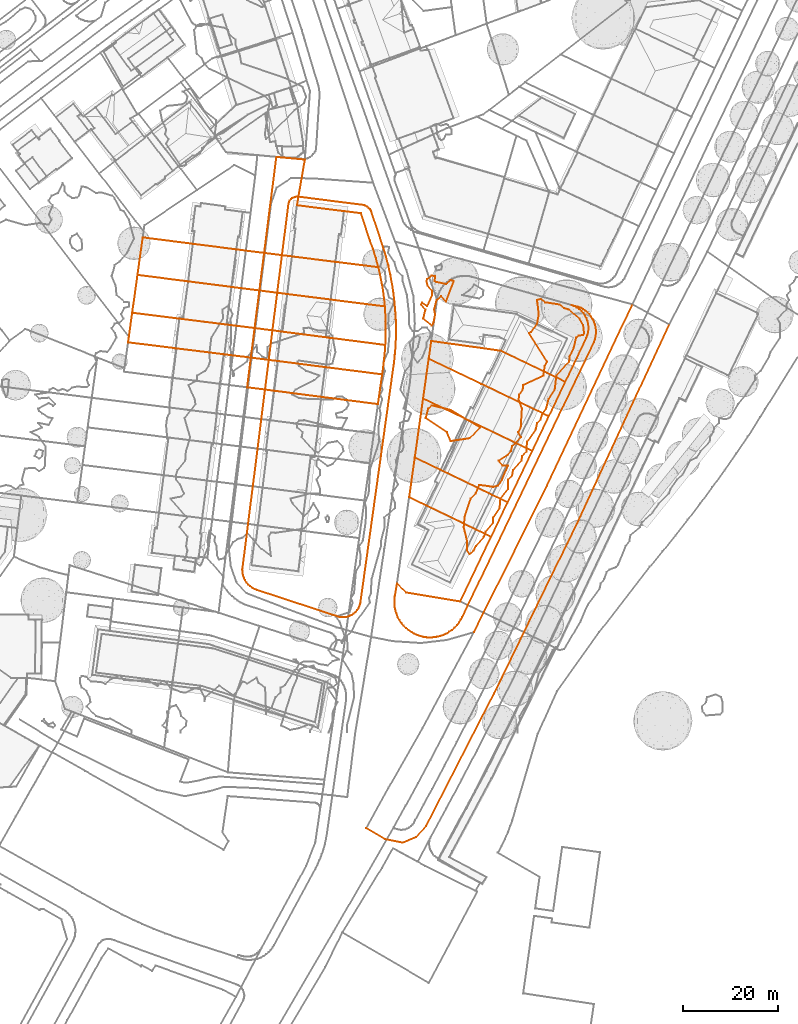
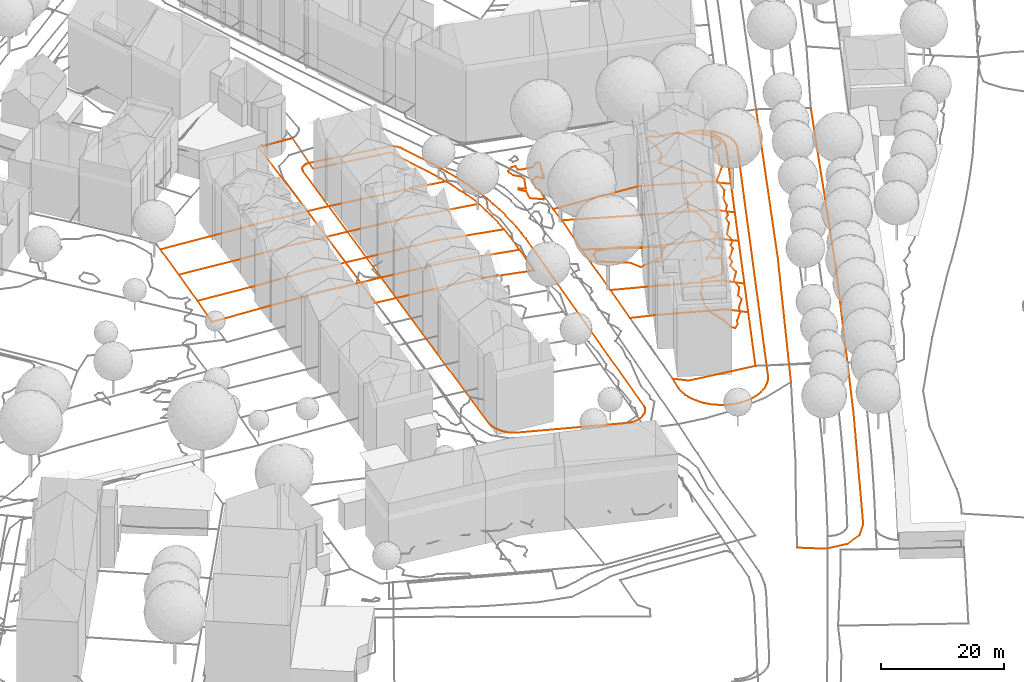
# Not in any storey, part 128 of 494: 19 proxies.
"""IFC2X3 model written with IfcOpenShell, lengths in metres."""

import ifcopenshell
import ifcopenshell.guid

model = None  # the IFC model being written
_history = None  # IfcOwnerHistory: only IFC2X3 demands one
_inside = {}  # id of a spatial element -> (the spatial element, [elements in it])
_under = {}  # id of a project, library or spatial element -> (it, [spatial elements below it])
_declared = {}  # id of a project -> (the project, [libraries it declares])
_typed = {}  # id of a type object -> (the type object, [elements of that type])
_made_of = {}  # id of a material, layer set ... -> (it, [elements and type objects made of it])


def new_model(schema):
    """Start an empty IFC model of exactly this schema.

    Asked for "IFC4X3", IfcOpenShell would pick the latest addendum, in which some entities
    have other attributes; the version numbers below select the first issue.
    IFC2X3 requires an IfcOwnerHistory on every rooted entity: one is made here for all.
    """
    global model, _history
    if schema == "IFC4X3":
        model = ifcopenshell.file(schema_version=(4, 3, 0, 0))
    else:
        model = ifcopenshell.file(schema=schema)
    _inside.clear()
    _under.clear()
    _declared.clear()
    _typed.clear()
    _made_of.clear()
    _history = None
    if model.schema == "IFC2X3":
        org = make("IfcOrganization", Name="unknown")
        user = make(
            "IfcPersonAndOrganization",
            ThePerson=make("IfcPerson", FamilyName="unknown"),
            TheOrganization=org,
        )
        app = make(
            "IfcApplication",
            ApplicationDeveloper=org,
            Version="unknown",
            ApplicationFullName="unknown",
            ApplicationIdentifier="unknown",
        )
        _history = make(
            "IfcOwnerHistory",
            OwningUser=user,
            OwningApplication=app,
            ChangeAction="ADDED",
            CreationDate=0,
        )
    return model


def make(cls, **values):
    """One entity of the class cls with the attributes given. An attribute that is None is left unset."""
    return model.create_entity(
        cls, **{name: value for name, value in values.items() if value is not None}
    )


def entity(cls, *values):
    """Any entity or typed value of the class cls, its attributes in the order of the schema. None: left unset."""
    e = model.create_entity(cls)
    for i, value in enumerate(values):
        if value is not None:
            e[i] = value
    return e


def rooted(cls, **values):
    """An entity with a GlobalId (a new one), such as an element, a storey or a relation."""
    return make(cls, GlobalId=ifcopenshell.guid.new(), OwnerHistory=_history, **values)


def si_unit(unit_type, name, prefix=None):
    """IfcSIUnit, for example si_unit("LENGTHUNIT", "METRE", prefix="MILLI")."""
    return make("IfcSIUnit", UnitType=unit_type, Prefix=prefix, Name=name)


def assignment(units):
    """IfcUnitAssignment: the units of a project."""
    return None if units is None else make("IfcUnitAssignment", Units=units)


def point(xyz):
    """IfcCartesianPoint."""
    return None if xyz is None else make("IfcCartesianPoint", Coordinates=xyz)


def direction(xyz):
    """IfcDirection."""
    return None if xyz is None else make("IfcDirection", DirectionRatios=xyz)


def frame(location, z_axis=None, x_axis=None):
    """IfcAxis2Placement3D, a coordinate frame: its origin and axes. An axis left out is left unset."""
    return make(
        "IfcAxis2Placement3D",
        Location=point(location),
        Axis=direction(z_axis),
        RefDirection=direction(x_axis),
    )


def origin_with_axes():
    """The frame at (0, 0, 0) with the z axis (0, 0, 1) and the x axis (1, 0, 0) written out."""
    return frame((0.0, 0.0, 0.0), z_axis=(0.0, 0.0, 1.0), x_axis=(1.0, 0.0, 0.0))


def place(relative_to, where):
    """IfcLocalPlacement: puts the frame where relative to a parent placement (None: the world)."""
    return make(
        "IfcLocalPlacement", PlacementRelTo=relative_to, RelativePlacement=where
    )


def context(
    kind, dimensions, precision=None, world=None, true_north=None, identifier=None
):
    """IfcGeometricRepresentationContext, for example the 3D "Model" context."""
    return make(
        "IfcGeometricRepresentationContext",
        ContextIdentifier=identifier,
        ContextType=kind,
        CoordinateSpaceDimension=dimensions,
        Precision=precision,
        WorldCoordinateSystem=world,
        TrueNorth=true_north,
    )


def subcontext(parent, identifier, kind, view, scale=None):
    """IfcGeometricRepresentationSubContext, for example "Body" below "Model"."""
    return make(
        "IfcGeometricRepresentationSubContext",
        ContextIdentifier=identifier,
        ContextType=kind,
        ParentContext=parent,
        TargetScale=scale,
        TargetView=view,
    )


def project(units=None, contexts=None):
    """IfcProject with its units and contexts."""
    return rooted(
        "IfcProject",
        Name="project",
        RepresentationContexts=contexts,
        UnitsInContext=assignment(units),
    )


def shape(context_of_items, identifier, shape_type, items):
    """IfcShapeRepresentation: the items that make up one representation, for example the "Body"."""
    return make(
        "IfcShapeRepresentation",
        ContextOfItems=context_of_items,
        RepresentationIdentifier=identifier,
        RepresentationType=shape_type,
        Items=items,
    )


def made_of(thing, what):
    """Note that an element or type object is made of a material, layer set ...; save() writes the relation."""
    if what is not None:
        _made_of.setdefault(what.id(), (what, []))[1].append(thing)
    return thing


def element(
    cls,
    number,
    at=None,
    inside=None,
    cuts=None,
    type_object=None,
    material=None,
    context=None,
    identifier="Body",
    shape_type=None,
    held_by="IfcProductDefinitionShape",
    body=None,
    shapes=None,
    **own,
):
    """One element of the class cls, such as IfcWall. Its Tag is "e" and its number.

    at: its placement. inside: the storey or other place that contains it. cuts: it is an
    opening in that element (IfcRelVoidsElement). A single representation is given by context,
    identifier, shape_type and body (its items); several are given by shapes. held_by: the class
    of the entity that holds the representations. save() writes the other relations.
    """
    e = rooted(cls, Tag="e%d" % number, ObjectPlacement=at, **own)
    if body is not None:
        shapes = [shape(context, identifier, shape_type, body)]
    if shapes is not None:
        e.Representation = make(held_by, Representations=shapes)
    if inside is not None:
        _inside.setdefault(inside.id(), (inside, []))[1].append(e)
    if cuts is not None:
        rooted(
            "IfcRelVoidsElement", RelatingBuildingElement=cuts, RelatedOpeningElement=e
        )
    if type_object is not None:
        _typed.setdefault(type_object.id(), (type_object, []))[1].append(e)
    return made_of(e, material)


def aggregate(whole, parts):
    """IfcRelAggregates: a whole, such as a stair, and the parts it consists of."""
    return rooted("IfcRelAggregates", RelatingObject=whole, RelatedObjects=parts)


def save(model, path):
    """Write the relations noted so far, then the file.

    IfcRelAggregates (storeys below a building ...), IfcRelContainedInSpatialStructure (elements
    in a storey), IfcRelDefinesByType, IfcRelAssociatesMaterial and IfcRelDeclares: one each for
    every whole, place, type object, material and project.
    """
    for whole, parts in _under.values():
        aggregate(whole, parts)
    for where, things in _inside.values():
        rooted(
            "IfcRelContainedInSpatialStructure",
            RelatedElements=things,
            RelatingStructure=where,
        )
    for kind, things in _typed.values():
        rooted("IfcRelDefinesByType", RelatedObjects=things, RelatingType=kind)
    for what, things in _made_of.values():
        rooted("IfcRelAssociatesMaterial", RelatedObjects=things, RelatingMaterial=what)
    for by, libraries in _declared.values():
        rooted("IfcRelDeclares", RelatingContext=by, RelatedDefinitions=libraries)
    model.write(path)


model = new_model("IFC2X3")

# Units and contexts
model_context = context("Model", 3, precision=1e-05, world=origin_with_axes())
body_context = subcontext(model_context, "Body", "Model", "MODEL_VIEW")
ifc_project = project(units=[si_unit("AREAUNIT", "SQUARE_METRE"), si_unit("LENGTHUNIT", "METRE")], contexts=[model_context])

# Proxies
proxy_1_placement = place(None, frame((479.832732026, -21.4962561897, 502.279), z_axis=(0.0, 0.0, 1.0), x_axis=(1.0, 0.0, 0.0)))
element("IfcBuildingElementProxy", 1, at=proxy_1_placement, Name="Road 117", ObjectType="NOTDEFINED", context=body_context, shape_type="GeometricCurveSet", body=[
    entity("IfcGeometricCurveSet", [entity("IfcPolyline", [entity("IfcCartesianPoint", [64.0240000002, 106.4619967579, 0.136]), entity("IfcCartesianPoint", [44.6409999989, 64.610998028, 0.075]), entity("IfcCartesianPoint", [27.0199999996, 28.4869991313, -0.175]), entity("IfcCartesianPoint", [12.6290000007, 0.4409999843, -0.039]), entity("IfcCartesianPoint", [10.5729999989, -1.9089999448, -0.045]), entity("IfcCartesianPoint", [7.6359999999, -3.0839999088, -0.059]), entity("IfcCartesianPoint", [3.9649999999, -2.3489999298, -0.191]), entity("IfcCartesianPoint", [0.0, 0.0, 0.0])])]),
])
proxy_2_placement = place(None, frame((502.5807320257, 19.9217425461, 502.023), z_axis=(0.0, 0.0, 1.0), x_axis=(1.0, 0.0, 0.0)))
element("IfcBuildingElementProxy", 2, at=proxy_2_placement, Name="Road 118", ObjectType="NOTDEFINED", context=body_context, shape_type="GeometricCurveSet", body=[
    entity("IfcGeometricCurveSet", [entity("IfcPolyline", [entity("IfcCartesianPoint", [33.4930000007, 69.3029978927, 0.261]), entity("IfcCartesianPoint", [15.432, 30.9769990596, 0.241]), entity("IfcCartesianPoint", [0.0, 0.0, 0.0])])]),
])
proxy_3_placement = place(None, frame((453.6327320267, 33.1347160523, 502.8728551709), z_axis=(0.0, 0.0, 1.0), x_axis=(1.0, 0.0, 0.0)))
element("IfcBuildingElementProxy", 3, at=proxy_3_placement, Name="Roads Outline 119", ObjectType="NOTDEFINED", context=body_context, shape_type="GeometricCurveSet", body=[
    entity("IfcGeometricCurveSet", [entity("IfcPolyline", [entity("IfcCartesianPoint", [0.0, 0.0, 0.0]), entity("IfcCartesianPoint", [9.7450000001, 77.3050000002, -0.2529599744]), entity("IfcCartesianPoint", [9.8470000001, 77.6740000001, -0.2523965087]), entity("IfcCartesianPoint", [10.0219999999, 78.0150000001, -0.2509386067]), entity("IfcCartesianPoint", [10.2629999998, 78.3130000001, -0.2525505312]), entity("IfcCartesianPoint", [10.5600000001, 78.5560000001, -0.2573419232]), entity("IfcCartesianPoint", [10.8360000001, 78.706, -0.2608742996]), entity("IfcCartesianPoint", [11.1340000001, 78.807, -0.2657251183]), entity("IfcCartesianPoint", [11.4440000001, 78.8570000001, -0.2707743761]), entity("IfcCartesianPoint", [11.7579999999, 78.8540000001, -0.2734145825]), entity("IfcCartesianPoint", [11.8569999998, 78.841, -0.2737336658]), entity("IfcCartesianPoint", [25.591, 77.0930000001, -0.8043729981]), entity("IfcCartesianPoint", [26.0019999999, 76.956, -0.8041689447]), entity("IfcCartesianPoint", [26.3810000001, 76.7470000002, -0.8081161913]), entity("IfcCartesianPoint", [26.716, 76.473, -0.8157690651]), entity("IfcCartesianPoint", [26.966, 76.1870000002, -0.8231526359]), entity("IfcCartesianPoint", [27.1680000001, 75.8660000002, -0.834665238]), entity("IfcCartesianPoint", [27.3169999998, 75.517, -0.8480266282]), entity("IfcCartesianPoint", [29.807, 68.121, -0.8791846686]), entity("IfcCartesianPoint", [30.372, 66.196, -0.9032363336]), entity("IfcCartesianPoint", [30.8709999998, 64.2520000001, -0.9307406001]), entity("IfcCartesianPoint", [31.3029999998, 62.2930000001, -0.9398216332]), entity("IfcCartesianPoint", [31.6689999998, 60.3200000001, -0.9766558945]), entity("IfcCartesianPoint", [31.9530000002, 58.4510000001, -0.9014641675]), entity("IfcCartesianPoint", [32.1770000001, 56.574, -0.9052382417]), entity("IfcCartesianPoint", [32.341, 54.6910000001, -0.9534339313]), entity("IfcCartesianPoint", [32.4530000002, 52.7830000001, -0.9686429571]), entity("IfcCartesianPoint", [32.497, 50.8730000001, -0.9599198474]), entity("IfcCartesianPoint", [32.4729999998, 48.9620000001, -0.9749831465]), entity("IfcCartesianPoint", [32.3879999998, 47.1500000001, -0.9447301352]), entity("IfcCartesianPoint", [32.2409999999, 45.3430000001, -0.9865192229]), entity("IfcCartesianPoint", [32.034, 43.5410000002, -0.9727612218]), entity("IfcCartesianPoint", [24.9339999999, -7.1439999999, -0.9177699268]), entity("IfcCartesianPoint", [24.7769999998, -7.6429999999, -0.9108936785]), entity("IfcCartesianPoint", [24.554, -8.115, -0.9020539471]), entity("IfcCartesianPoint", [24.2680000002, -8.5529999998, -0.8958583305]), entity("IfcCartesianPoint", [23.9249999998, -8.9469999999, -0.8930536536]), entity("IfcCartesianPoint", [23.5320000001, -9.291, -0.8872022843]), entity("IfcCartesianPoint", [23.0950000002, -9.578, -0.8980385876]), entity("IfcCartesianPoint", [22.7510000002, -9.75, -0.9084242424]), entity("IfcCartesianPoint", [22.392, -9.8859999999, -0.9149869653]), entity("IfcCartesianPoint", [21.8569999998, -10.0159999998, -0.9217474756]), entity("IfcCartesianPoint", [21.3089999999, -10.0689999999, -0.9202105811]), entity("IfcCartesianPoint", [20.7599999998, -10.0419999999, -0.9041667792]), entity("IfcCartesianPoint", [20.219, -9.936, -0.8851758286]), entity("IfcCartesianPoint", [19.7000000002, -9.754, -0.873610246]), entity("IfcCartesianPoint", [3.1669999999, -4.3069999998, -0.2186617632]), entity("IfcCartesianPoint", [2.6340000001, -4.1059999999, -0.182743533]), entity("IfcCartesianPoint", [2.1310000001, -3.838, -0.1767513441]), entity("IfcCartesianPoint", [1.6660000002, -3.5089999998, -0.2055927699]), entity("IfcCartesianPoint", [1.247, -3.1239999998, -0.1520243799]), entity("IfcCartesianPoint", [0.8799999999, -2.6889999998, -0.1128639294]), entity("IfcCartesianPoint", [0.571, -2.21, -0.0935155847]), entity("IfcCartesianPoint", [0.3229999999, -1.6899999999, -0.053530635]), entity("IfcCartesianPoint", [0.1430000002, -1.142, -0.033561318]), entity("IfcCartesianPoint", [0.0350000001, -0.5759999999, -0.0150887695]), entity("IfcCartesianPoint", [0.0, 0.0, 0.0])])]),
])
proxy_4_placement = place(None, frame((485.7837320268, 26.0037160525, 502.0841980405), z_axis=(0.0, 0.0, 1.0), x_axis=(1.0, 0.0, 0.0)))
element("IfcBuildingElementProxy", 4, at=proxy_4_placement, Name="Roads Outline 125", ObjectType="NOTDEFINED", context=body_context, shape_type="GeometricCurveSet", body=[
    entity("IfcGeometricCurveSet", [entity("IfcPolyline", [entity("IfcCartesianPoint", [0.0749999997, 1.49, -0.0323826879]), entity("IfcCartesianPoint", [0.5419999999, 4.156, 0.0673335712]), entity("IfcCartesianPoint", [2.4610000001, 2.2959999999, 0.1408554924]), entity("IfcCartesianPoint", [13.8900000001, 0.3959999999, 0.2163383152]), entity("IfcCartesianPoint", [20.4309999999, 14.0759999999, 0.2321996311]), entity("IfcCartesianPoint", [23.9210000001, 21.3659999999, 0.2629214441]), entity("IfcCartesianPoint", [29.122, 32.236, 0.3074544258]), entity("IfcCartesianPoint", [32.6319999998, 39.557, 0.2896248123]), entity("IfcCartesianPoint", [36.1230000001, 46.8469999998, 0.3168073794]), entity("IfcCartesianPoint", [40.5430000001, 56.0969999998, 0.4121495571]), entity("IfcCartesianPoint", [40.7760000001, 56.672, 0.4549622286]), entity("IfcCartesianPoint", [40.9350000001, 57.2719999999, 0.4071513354]), entity("IfcCartesianPoint", [41.02, 57.8859999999, 0.378488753]), entity("IfcCartesianPoint", [41.0269999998, 58.507, 0.3728632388]), entity("IfcCartesianPoint", [40.9569999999, 59.1229999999, 0.3658315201]), entity("IfcCartesianPoint", [40.8119999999, 59.727, 0.3653367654]), entity("IfcCartesianPoint", [40.5929999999, 60.307, 0.3388194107]), entity("IfcCartesianPoint", [40.3029999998, 60.855, 0.3306956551]), entity("IfcCartesianPoint", [39.9469999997, 61.3639999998, 0.3953893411]), entity("IfcCartesianPoint", [39.531, 61.824, 0.4563623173]), entity("IfcCartesianPoint", [39.0609999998, 62.2289999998, 0.4477691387]), entity("IfcCartesianPoint", [38.5439999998, 62.5729999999, 0.4165176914]), entity("IfcCartesianPoint", [37.9890000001, 62.851, 0.4214735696]), entity("IfcCartesianPoint", [37.4040000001, 63.057, 0.4447862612]), entity("IfcCartesianPoint", [38.193, 62.845, 0.3885371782]), entity("IfcCartesianPoint", [38.764, 62.6969999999, 0.3486701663]), entity("IfcCartesianPoint", [39.3169999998, 62.49, 0.3325325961]), entity("IfcCartesianPoint", [39.844, 62.2239999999, 0.2862632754]), entity("IfcCartesianPoint", [40.3399999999, 61.9039999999, 0.1924148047]), entity("IfcCartesianPoint", [40.7990000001, 61.5329999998, 0.2124003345]), entity("IfcCartesianPoint", [41.216, 61.115, 0.2141715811]), entity("IfcCartesianPoint", [41.585, 60.655, 0.1992605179]), entity("IfcCartesianPoint", [41.9040000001, 60.1579999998, 0.2272557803]), entity("IfcCartesianPoint", [42.1859999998, 59.5889999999, 0.2379409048]), entity("IfcCartesianPoint", [42.3999999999, 58.9909999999, 0.2385093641]), entity("IfcCartesianPoint", [42.5439999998, 58.372, 0.2416686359]), entity("IfcCartesianPoint", [42.6170000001, 57.7409999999, 0.2453520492]), entity("IfcCartesianPoint", [42.6170000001, 57.1059999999, 0.2793848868]), entity("IfcCartesianPoint", [42.5439999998, 56.4749999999, 0.3025620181]), entity("IfcCartesianPoint", [42.3989999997, 55.8569999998, 0.2903058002]), entity("IfcCartesianPoint", [42.1839999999, 55.2589999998, 0.3103747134]), entity("IfcCartesianPoint", [15.5209999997, -0.3910000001, 0.1936643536]), entity("IfcCartesianPoint", [14.3449999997, -2.845, 0.1894626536]), entity("IfcCartesianPoint", [14.0189999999, -3.4710000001, 0.1919606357]), entity("IfcCartesianPoint", [13.6359999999, -4.0630000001, 0.1893932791]), entity("IfcCartesianPoint", [13.199, -4.6170000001, 0.1862486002]), entity("IfcCartesianPoint", [12.7119999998, -5.128, 0.1715951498]), entity("IfcCartesianPoint", [12.179, -5.5900000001, 0.1682015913]), entity("IfcCartesianPoint", [11.605, -6.0, 0.1521191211]), entity("IfcCartesianPoint", [10.9939999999, -6.355, 0.1307233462]), entity("IfcCartesianPoint", [10.3539999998, -6.6500000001, 0.1076790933]), entity("IfcCartesianPoint", [9.6880000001, -6.885, 0.0934804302]), entity("IfcCartesianPoint", [9.0039999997, -7.0550000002, 0.0710395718]), entity("IfcCartesianPoint", [8.3059999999, -7.1610000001, 0.0352761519]), entity("IfcCartesianPoint", [7.6030000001, -7.2010000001, 0.0426996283]), entity("IfcCartesianPoint", [6.8999999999, -7.1740000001, 0.0342207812]), entity("IfcCartesianPoint", [6.202, -7.0820000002, 0.0168867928]), entity("IfcCartesianPoint", [5.5150000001, -6.925, 0.0004825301]), entity("IfcCartesianPoint", [4.8470000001, -6.7040000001, -0.0096058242]), entity("IfcCartesianPoint", [4.202, -6.4210000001, -0.0227687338]), entity("IfcCartesianPoint", [3.5860000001, -6.0800000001, 0.0065387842]), entity("IfcCartesianPoint", [3.0049999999, -5.682, 0.0062379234]), entity("IfcCartesianPoint", [2.4639999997, -5.2310000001, -0.0271204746]), entity("IfcCartesianPoint", [1.9679999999, -4.7320000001, -0.0134537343]), entity("IfcCartesianPoint", [1.4920000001, -4.1560000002, -0.014156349]), entity("IfcCartesianPoint", [1.0759999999, -3.537, -0.0073834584]), entity("IfcCartesianPoint", [0.7220000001, -2.8790000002, 0.0052570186]), entity("IfcCartesianPoint", [0.4359999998, -2.1900000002, 0.006376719]), entity("IfcCartesianPoint", [0.2179999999, -1.4750000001, -0.0075940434]), entity("IfcCartesianPoint", [0.0719999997, -0.743, 0.0042843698]), entity("IfcCartesianPoint", [0.0, 0.0, 0.0]), entity("IfcCartesianPoint", [0.0, 0.747, -0.0216908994]), entity("IfcCartesianPoint", [0.0749999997, 1.49, -0.0323826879])])]),
])
proxy_5_placement = place(None, frame((490.0977320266, 56.8397160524, 502.2080766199), z_axis=(0.0, 0.0, 1.0), x_axis=(1.0, 0.0, 0.0)))
element("IfcBuildingElementProxy", 5, at=proxy_5_placement, Name="Cadastre 135", ObjectType="NOTDEFINED", context=body_context, shape_type="GeometricCurveSet", body=[
    entity("IfcGeometricCurveSet", [entity("IfcPolyline", [entity("IfcCartesianPoint", [0.0, 0.0, 0.0]), entity("IfcCartesianPoint", [1.7510000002, 12.45, -0.1260882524]), entity("IfcCartesianPoint", [10.4700000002, 8.2709999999, -0.3193070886]), entity("IfcCartesianPoint", [21.5610000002, 2.956, 0.8949171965]), entity("IfcCartesianPoint", [24.8080000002, 1.4000000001, 0.1835758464]), entity("IfcCartesianPoint", [19.6070000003, -9.47, 0.1390428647]), entity("IfcCartesianPoint", [16.3659999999, -7.9039999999, 0.9678865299]), entity("IfcCartesianPoint", [5.3300000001, -2.574, 0.3661411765]), entity("IfcCartesianPoint", [0.0, 0.0, 0.0])])]),
])
proxy_6_placement = place(None, frame((488.8967320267, 48.4297160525, 502.1975362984), z_axis=(0.0, 0.0, 1.0), x_axis=(1.0, 0.0, 0.0)))
element("IfcBuildingElementProxy", 6, at=proxy_6_placement, Name="Cadastre 181", ObjectType="NOTDEFINED", context=body_context, shape_type="GeometricCurveSet", body=[
    entity("IfcGeometricCurveSet", [entity("IfcPolyline", [entity("IfcCartesianPoint", [0.0, 0.0, 0.0]), entity("IfcCartesianPoint", [1.2009999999, 8.4099999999, 0.0105403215]), entity("IfcCartesianPoint", [6.531, 5.8359999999, 0.3766814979]), entity("IfcCartesianPoint", [17.5669999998, 0.5060000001, 0.9784268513]), entity("IfcCartesianPoint", [20.8080000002, -1.0600000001, 0.1495831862]), entity("IfcCartesianPoint", [17.318, -8.3500000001, 0.1188613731]), entity("IfcCartesianPoint", [14.0839999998, -6.791, 0.9053699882]), entity("IfcCartesianPoint", [3.6749999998, -1.7720000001, 0.3665988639]), entity("IfcCartesianPoint", [0.0, 0.0, 0.0])])]),
])
proxy_7_placement = place(None, frame((458.2437320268, 100.0797160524, 502.7833330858), z_axis=(0.0, 0.0, 1.0), x_axis=(1.0, 0.0, 0.0)))
element("IfcBuildingElementProxy", 7, at=proxy_7_placement, Name="Cadastre 200", ObjectType="NOTDEFINED", context=body_context, shape_type="GeometricCurveSet", body=[
    entity("IfcGeometricCurveSet", [entity("IfcPolyline", [entity("IfcCartesianPoint", [0.0, 0.0, 0.0]), entity("IfcCartesianPoint", [2.5800000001, 20.301, -0.5211202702]), entity("IfcCartesianPoint", [8.6090000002, 19.7410000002, -0.5354105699]), entity("IfcCartesianPoint", [6.9300000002, 10.0800000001, -0.1528684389]), entity("IfcCartesianPoint", [20.4580000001, 8.3910000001, -0.6199449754]), entity("IfcCartesianPoint", [22.3679999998, 2.6699999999, -0.7099286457]), entity("IfcCartesianPoint", [23.0279999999, 0.794, -0.7163848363]), entity("IfcCartesianPoint", [23.6239999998, -1.1040000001, -0.7372350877]), entity("IfcCartesianPoint", [24.1579999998, -3.02, -0.7358762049]), entity("IfcCartesianPoint", [15.0290000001, -1.879, -0.3789799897]), entity("IfcCartesianPoint", [5.8789999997, -0.74, -0.1002166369]), entity("IfcCartesianPoint", [3.77, -0.47, -0.0326743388]), entity("IfcCartesianPoint", [0.0, 0.0, 0.0])])]),
])
proxy_8_placement = place(None, frame((491.8487320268, 69.2897160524, 502.0819883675), z_axis=(0.0, 0.0, 1.0), x_axis=(1.0, 0.0, 0.0)))
element("IfcBuildingElementProxy", 8, at=proxy_8_placement, Name="Cadastre 206", ObjectType="NOTDEFINED", context=body_context, shape_type="GeometricCurveSet", body=[
    entity("IfcGeometricCurveSet", [entity("IfcPolyline", [entity("IfcCartesianPoint", [0.0, 0.0, 0.0]), entity("IfcCartesianPoint", [1.1899999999, 8.4200000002, 0.2729138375]), entity("IfcCartesianPoint", [12.2379999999, 3.1310000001, 0.5793028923]), entity("IfcCartesianPoint", [23.3300000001, -2.179, 1.0369620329]), entity("IfcCartesianPoint", [26.5669999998, -3.7289999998, 0.2918344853]), entity("IfcCartesianPoint", [23.057, -11.0499999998, 0.3096640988]), entity("IfcCartesianPoint", [19.8100000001, -9.4939999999, 1.0210054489]), entity("IfcCartesianPoint", [8.719, -4.179, -0.1932188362]), entity("IfcCartesianPoint", [0.0, 0.0, 0.0])])]),
])
proxy_9_placement = place(None, frame((493.0387320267, 77.7097160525, 502.354902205), z_axis=(0.0, 0.0, 1.0), x_axis=(1.0, 0.0, 0.0)))
element("IfcBuildingElementProxy", 9, at=proxy_9_placement, Name="Cadastre 207", ObjectType="NOTDEFINED", context=body_context, shape_type="GeometricCurveSet", body=[
    entity("IfcGeometricCurveSet", [entity("IfcPolyline", [entity("IfcCartesianPoint", [0.0, 0.0, 0.0]), entity("IfcCartesianPoint", [0.531, 3.76, -0.2524258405]), entity("IfcCartesianPoint", [15.2390000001, 1.6909999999, 0.3860078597]), entity("IfcCartesianPoint", [25.6320000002, -3.304, 0.6899825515]), entity("IfcCartesianPoint", [28.8680000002, -4.8590000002, 0.0461032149]), entity("IfcCartesianPoint", [25.3769999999, -12.149, 0.0189206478]), entity("IfcCartesianPoint", [22.1400000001, -10.5990000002, 0.7640481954]), entity("IfcCartesianPoint", [11.048, -5.2890000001, 0.3063890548]), entity("IfcCartesianPoint", [0.0, 0.0, 0.0])])]),
])
proxy_10_placement = place(None, frame((455.4417320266, 77.9497160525, 503.0316191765), z_axis=(0.0, 0.0, 1.0), x_axis=(1.0, 0.0, 0.0)))
element("IfcBuildingElementProxy", 10, at=proxy_10_placement, Name="Cadastre 209", ObjectType="NOTDEFINED", context=body_context, shape_type="GeometricCurveSet", body=[
    entity("IfcGeometricCurveSet", [entity("IfcPolyline", [entity("IfcCartesianPoint", [0.0, 0.0, 0.0]), entity("IfcCartesianPoint", [0.7910000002, 6.25, -0.0698413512]), entity("IfcCartesianPoint", [4.5580000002, 5.7619999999, -0.0775266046]), entity("IfcCartesianPoint", [6.412, 5.5219999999, -0.0621302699]), entity("IfcCartesianPoint", [16.6370000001, 4.1969999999, -0.0062787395]), entity("IfcCartesianPoint", [28.4180000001, 2.6699999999, -1.0231640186]), entity("IfcCartesianPoint", [28.267, 0.5929999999, -1.047767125]), entity("IfcCartesianPoint", [28.0430000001, -1.4780000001, -1.0954798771]), entity("IfcCartesianPoint", [27.7480000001, -3.54, -1.0754547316]), entity("IfcCartesianPoint", [15.8160000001, -2.0180000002, -0.0723969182]), entity("IfcCartesianPoint", [5.6140000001, -0.716, 0.012964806]), entity("IfcCartesianPoint", [3.7690000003, -0.4810000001, 0.0280740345]), entity("IfcCartesianPoint", [0.0, 0.0, 0.0])])]),
])
proxy_11_placement = place(None, frame((456.2327320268, 84.1997160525, 502.9617778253), z_axis=(0.0, 0.0, 1.0), x_axis=(1.0, 0.0, 0.0)))
element("IfcBuildingElementProxy", 11, at=proxy_11_placement, Name="Cadastre 210", ObjectType="NOTDEFINED", context=body_context, shape_type="GeometricCurveSet", body=[
    entity("IfcGeometricCurveSet", [entity("IfcPolyline", [entity("IfcCartesianPoint", [0.0, 0.0, 0.0]), entity("IfcCartesianPoint", [1.0099999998, 7.9399999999, -0.0829378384]), entity("IfcCartesianPoint", [4.7599999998, 7.46, -0.093228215]), entity("IfcCartesianPoint", [6.8999999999, 7.1899999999, -0.1076761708]), entity("IfcCartesianPoint", [16.02, 6.034, -0.2281195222]), entity("IfcCartesianPoint", [27.548, 4.5699999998, -0.8212400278]), entity("IfcCartesianPoint", [27.6680000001, 2.5349999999, -0.9317075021]), entity("IfcCartesianPoint", [27.7209999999, 0.496, -0.9237458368]), entity("IfcCartesianPoint", [27.7069999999, -1.5430000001, -0.9004112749]), entity("IfcCartesianPoint", [27.6269999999, -3.5800000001, -0.9533226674]), entity("IfcCartesianPoint", [15.8459999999, -2.0530000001, 0.0635626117]), entity("IfcCartesianPoint", [5.6209999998, -0.7280000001, 0.0077110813]), entity("IfcCartesianPoint", [3.767, -0.4880000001, -0.0076852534]), entity("IfcCartesianPoint", [0.0, 0.0, 0.0])])]),
])
proxy_12_placement = place(None, frame((431.4657320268, 95.4397160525, 502.4025618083), z_axis=(0.0, 0.0, 1.0), x_axis=(1.0, 0.0, 0.0)))
element("IfcBuildingElementProxy", 12, at=proxy_12_placement, Name="Cadastre 212", ObjectType="NOTDEFINED", context=body_context, shape_type="GeometricCurveSet", body=[
    entity("IfcGeometricCurveSet", [entity("IfcPolyline", [entity("IfcCartesianPoint", [0.0, 0.0, 0.0]), entity("IfcCartesianPoint", [1.1099999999, 7.9299999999, -0.2021143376]), entity("IfcCartesianPoint", [11.7579999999, 6.5649999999, 0.0736992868]), entity("IfcCartesianPoint", [20.8659999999, 5.398, 0.325451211]), entity("IfcCartesianPoint", [23.0079999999, 5.1229999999, 0.2560918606]), entity("IfcCartesianPoint", [26.7779999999, 4.6399999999, 0.3807712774]), entity("IfcCartesianPoint", [25.7769999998, -3.3, 0.4762781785]), entity("IfcCartesianPoint", [21.9989999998, -2.8160000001, 0.4356177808]), entity("IfcCartesianPoint", [19.8369999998, -2.5390000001, 0.4831614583]), entity("IfcCartesianPoint", [10.7220000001, -1.3730000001, 0.1465832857]), entity("IfcCartesianPoint", [0.0, 0.0, 0.0])])]),
])
proxy_13_placement = place(None, frame((429.4747320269, 81.1797160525, 502.3623866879), z_axis=(0.0, 0.0, 1.0), x_axis=(1.0, 0.0, 0.0)))
element("IfcBuildingElementProxy", 13, at=proxy_13_placement, Name="Cadastre 213", ObjectType="NOTDEFINED", context=body_context, shape_type="GeometricCurveSet", body=[
    entity("IfcGeometricCurveSet", [entity("IfcPolyline", [entity("IfcCartesianPoint", [0.0, 0.0, 0.0]), entity("IfcCartesianPoint", [0.1799999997, 1.23, -0.0210623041]), entity("IfcCartesianPoint", [0.8799999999, 6.26, 0.0918797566]), entity("IfcCartesianPoint", [10.8809999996, 5.0079999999, 0.2835336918]), entity("IfcCartesianPoint", [21.0919999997, 3.7290000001, 0.6649513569]), entity("IfcCartesianPoint", [22.9869999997, 3.4919999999, 0.5513137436]), entity("IfcCartesianPoint", [26.7579999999, 3.02, 0.5993911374]), entity("IfcCartesianPoint", [25.9669999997, -3.23, 0.6692324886]), entity("IfcCartesianPoint", [22.1969999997, -2.7609999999, 0.5796029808]), entity("IfcCartesianPoint", [20.3119999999, -2.5260000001, 0.7203817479]), entity("IfcCartesianPoint", [10.1009999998, -1.2560000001, 0.4460826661]), entity("IfcCartesianPoint", [0.0, 0.0, 0.0])])]),
])
proxy_14_placement = place(None, frame((430.3547320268, 87.4397160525, 502.4542664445), z_axis=(0.0, 0.0, 1.0), x_axis=(1.0, 0.0, 0.0)))
element("IfcBuildingElementProxy", 14, at=proxy_14_placement, Name="Cadastre 214", ObjectType="NOTDEFINED", context=body_context, shape_type="GeometricCurveSet", body=[
    entity("IfcGeometricCurveSet", [entity("IfcPolyline", [entity("IfcCartesianPoint", [0.0, 0.0, 0.0]), entity("IfcCartesianPoint", [1.111, 8.0, -0.0517046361]), entity("IfcCartesianPoint", [11.8330000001, 6.6269999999, 0.0948786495]), entity("IfcCartesianPoint", [20.9479999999, 5.4609999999, 0.4314568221]), entity("IfcCartesianPoint", [23.1099999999, 5.1839999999, 0.3839131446]), entity("IfcCartesianPoint", [26.8879999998, 4.7, 0.4245735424]), entity("IfcCartesianPoint", [25.878, -3.24, 0.5075113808]), entity("IfcCartesianPoint", [22.1069999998, -2.7680000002, 0.4594339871]), entity("IfcCartesianPoint", [20.2119999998, -2.531, 0.5730716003]), entity("IfcCartesianPoint", [10.0009999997, -1.2520000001, 0.1916539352]), entity("IfcCartesianPoint", [0.0, 0.0, 0.0])])]),
])
proxy_15_placement = place(None, frame((454.6517320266, 71.6797160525, 503.0970409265), z_axis=(0.0, 0.0, 1.0), x_axis=(1.0, 0.0, 0.0)))
element("IfcBuildingElementProxy", 15, at=proxy_15_placement, Name="Cadastre 215", ObjectType="NOTDEFINED", context=body_context, shape_type="GeometricCurveSet", body=[
    entity("IfcGeometricCurveSet", [entity("IfcPolyline", [entity("IfcCartesianPoint", [0.0, 0.0, 0.0]), entity("IfcCartesianPoint", [0.79, 6.27, -0.06542175]), entity("IfcCartesianPoint", [4.5590000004, 5.7889999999, -0.0373477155]), entity("IfcCartesianPoint", [6.4040000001, 5.554, -0.052456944]), entity("IfcCartesianPoint", [16.6060000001, 4.2519999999, -0.1378186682]), entity("IfcCartesianPoint", [28.5380000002, 2.73, -1.1408764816]), entity("IfcCartesianPoint", [27.6570000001, -3.5600000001, -1.0903212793]), entity("IfcCartesianPoint", [17.6800000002, -2.2760000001, -0.0645055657]), entity("IfcCartesianPoint", [5.7520000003, -0.74, -0.0435331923]), entity("IfcCartesianPoint", [3.7680000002, -0.4850000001, -0.0148936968]), entity("IfcCartesianPoint", [0.0, 0.0, 0.0])])]),
])
proxy_16_placement = place(None, frame((457.2427320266, 92.1397160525, 502.8788399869), z_axis=(0.0, 0.0, 1.0), x_axis=(1.0, 0.0, 0.0)))
element("IfcBuildingElementProxy", 16, at=proxy_16_placement, Name="Cadastre 218", ObjectType="NOTDEFINED", context=body_context, shape_type="GeometricCurveSet", body=[
    entity("IfcGeometricCurveSet", [entity("IfcPolyline", [entity("IfcCartesianPoint", [0.0, 0.0, 0.0]), entity("IfcCartesianPoint", [1.0010000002, 7.9399999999, -0.0955069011]), entity("IfcCartesianPoint", [4.7710000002, 7.47, -0.1281812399]), entity("IfcCartesianPoint", [6.8799999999, 7.2, -0.195723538]), entity("IfcCartesianPoint", [16.0300000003, 6.061, -0.4744868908]), entity("IfcCartesianPoint", [25.159, 4.9199999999, -0.831383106]), entity("IfcCartesianPoint", [25.5419999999, 3.2819999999, -0.7994354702]), entity("IfcCartesianPoint", [25.8710000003, 1.632, -0.8653346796]), entity("IfcCartesianPoint", [26.1469999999, -0.0279999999, -0.7723929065]), entity("IfcCartesianPoint", [26.3700000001, -1.696, -0.6705331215]), entity("IfcCartesianPoint", [26.5380000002, -3.3700000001, -0.7383021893]), entity("IfcCartesianPoint", [15.0100000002, -1.906, -0.1451816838]), entity("IfcCartesianPoint", [5.8900000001, -0.75, -0.0247383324]), entity("IfcCartesianPoint", [3.75, -0.48, -0.0102903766]), entity("IfcCartesianPoint", [0.0, 0.0, 0.0])])]),
])
proxy_17_placement = place(None, frame((491.4617672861, 89.1707160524, 502.0), z_axis=(0.0, 0.0, 1.0), x_axis=(1.0, 0.0, 0.0)))
element("IfcBuildingElementProxy", 17, at=proxy_17_placement, Name="Contour Line 502.0 m", ObjectType="NOTDEFINED", context=body_context, shape_type="GeometricCurveSet", body=[
    entity("IfcGeometricCurveSet", [entity("IfcPolyline", [entity("IfcCartesianPoint", [2.2159647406, -4.4002709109, 0.0]), entity("IfcCartesianPoint", [2.5347349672, -4.0, 0.0]), entity("IfcCartesianPoint", [2.9308241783, -2.0, 0.0]), entity("IfcCartesianPoint", [2.7196759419, -1.0, 0.0]), entity("IfcCartesianPoint", [3.2159647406, 0.9694323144, 0.0]), entity("IfcCartesianPoint", [4.2159647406, 1.7775735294, 0.0]), entity("IfcCartesianPoint", [5.2159647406, 0.6614950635, 0.0]), entity("IfcCartesianPoint", [6.8678418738, 5.0, 0.0]), entity("IfcCartesianPoint", [6.2159647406, 5.1387073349, 0.0]), entity("IfcCartesianPoint", [5.2159647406, 4.3467625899, 0.0]), entity("IfcCartesianPoint", [3.2159647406, 4.7564102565, 0.0]), entity("IfcCartesianPoint", [2.7768891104, 5.0, 0.0]), entity("IfcCartesianPoint", [2.9659647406, 6.0, 0.0]), entity("IfcCartesianPoint", [2.2159647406, 6.1174033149, 0.0]), entity("IfcCartesianPoint", [1.2159647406, 5.3923541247, 0.0]), entity("IfcCartesianPoint", [1.1336688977, 5.0, 0.0]), entity("IfcCartesianPoint", [1.3325828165, 4.0, 0.0]), entity("IfcCartesianPoint", [2.2440297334, 3.0, 0.0]), entity("IfcCartesianPoint", [2.2969960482, 2.0, 0.0]), entity("IfcCartesianPoint", [1.2159647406, -0.3538083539, 0.0]), entity("IfcCartesianPoint", [0.2159647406, 0.3801724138, 0.0]), entity("IfcCartesianPoint", [0.0, 0.0, 0.0]), entity("IfcCartesianPoint", [0.8705937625, -1.0, 0.0]), entity("IfcCartesianPoint", [0.4315305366, -3.0, 0.0]), entity("IfcCartesianPoint", [2.2159647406, -4.4002709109, 0.0])])]),
])
proxy_18_placement = place(None, frame((492.4079256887, 65.1707160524, 502.0), z_axis=(0.0, 0.0, 1.0), x_axis=(1.0, 0.0, 0.0)))
element("IfcBuildingElementProxy", 18, at=proxy_18_placement, Name="Contour Line 502.0 m", ObjectType="NOTDEFINED", context=body_context, shape_type="GeometricCurveSet", body=[
    entity("IfcGeometricCurveSet", [entity("IfcPolyline", [entity("IfcCartesianPoint", [9.269806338, -4.2495854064, 0.0]), entity("IfcCartesianPoint", [11.4860069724, -2.0, 0.0]), entity("IfcCartesianPoint", [5.269806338, 1.723466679, 0.0]), entity("IfcCartesianPoint", [1.269806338, 2.6886900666, 0.0]), entity("IfcCartesianPoint", [0.4950966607, 2.0, 0.0]), entity("IfcCartesianPoint", [0.0, 0.0, 0.0]), entity("IfcCartesianPoint", [4.4612381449, -3.0, 0.0]), entity("IfcCartesianPoint", [5.269806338, -4.8463085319, 0.0]), entity("IfcCartesianPoint", [9.269806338, -4.2495854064, 0.0])])]),
])
proxy_19_placement = place(None, frame((500.4445350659, 42.1707160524, 503.0), z_axis=(0.0, 0.0, 1.0), x_axis=(1.0, 0.0, 0.0)))
element("IfcBuildingElementProxy", 19, at=proxy_19_placement, Name="Contour Line 503.0 m", ObjectType="NOTDEFINED", context=body_context, shape_type="GeometricCurveSet", body=[
    entity("IfcGeometricCurveSet", [entity("IfcPolyline", [entity("IfcCartesianPoint", [2.0943491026, -5.0, 0.0]), entity("IfcCartesianPoint", [1.2331969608, -5.7170971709, 0.0]), entity("IfcCartesianPoint", [0.7149747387, -5.0, 0.0]), entity("IfcCartesianPoint", [0.7135210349, -3.0, 0.0]), entity("IfcCartesianPoint", [0.0, 0.0, 0.0]), entity("IfcCartesianPoint", [0.2331969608, 2.4357298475, 0.0]), entity("IfcCartesianPoint", [1.4650384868, 6.0, 0.0]), entity("IfcCartesianPoint", [2.477412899, 7.0, 0.0]), entity("IfcCartesianPoint", [3.2331969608, 8.8820276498, 0.0]), entity("IfcCartesianPoint", [6.2331969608, 8.46, 0.0]), entity("IfcCartesianPoint", [7.2331969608, 8.7148703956, 0.0]), entity("IfcCartesianPoint", [8.0856856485, 10.0, 0.0]), entity("IfcCartesianPoint", [9.3235685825, 13.0, 0.0]), entity("IfcCartesianPoint", [8.2331969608, 13.0072239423, 0.0]), entity("IfcCartesianPoint", [7.3432802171, 14.0, 0.0]), entity("IfcCartesianPoint", [9.2331969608, 15.2280821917, 0.0]), entity("IfcCartesianPoint", [9.9605283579, 16.0, 0.0]), entity("IfcCartesianPoint", [10.2331969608, 17.0445975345, 0.0]), entity("IfcCartesianPoint", [12.0824330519, 19.0, 0.0]), entity("IfcCartesianPoint", [11.4952235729, 20.0, 0.0]), entity("IfcCartesianPoint", [12.054040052, 21.0, 0.0]), entity("IfcCartesianPoint", [12.3018244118, 25.0, 0.0]), entity("IfcCartesianPoint", [11.6024780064, 27.0, 0.0]), entity("IfcCartesianPoint", [11.744003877, 28.0, 0.0]), entity("IfcCartesianPoint", [12.4747924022, 29.0, 0.0]), entity("IfcCartesianPoint", [12.5327252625, 30.0, 0.0]), entity("IfcCartesianPoint", [16.8264612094, 32.0, 0.0]), entity("IfcCartesianPoint", [17.1269793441, 34.0, 0.0]), entity("IfcCartesianPoint", [17.6074173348, 35.0, 0.0]), entity("IfcCartesianPoint", [13.787625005, 41.0, 0.0]), entity("IfcCartesianPoint", [14.2331969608, 41.1851993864, 0.0]), entity("IfcCartesianPoint", [15.5053652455, 43.0, 0.0]), entity("IfcCartesianPoint", [15.8604971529, 45.0, 0.0]), entity("IfcCartesianPoint", [15.5038016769, 48.0, 0.0]), entity("IfcCartesianPoint", [16.2331969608, 48.1763875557, 0.0]), entity("IfcCartesianPoint", [17.2331969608, 47.4807649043, 0.0]), entity("IfcCartesianPoint", [20.2331969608, 47.0002241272, 0.0]), entity("IfcCartesianPoint", [21.2331969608, 46.2294562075, 0.0]), entity("IfcCartesianPoint", [22.1212836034, 46.0, 0.0]), entity("IfcCartesianPoint", [24.4545084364, 44.0, 0.0]), entity("IfcCartesianPoint", [25.2331969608, 42.7132653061, 0.0]), entity("IfcCartesianPoint", [25.437392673, 41.0, 0.0]), entity("IfcCartesianPoint", [25.2331969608, 40.5802919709, 0.0]), entity("IfcCartesianPoint", [24.2331969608, 40.4181444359, 0.0]), entity("IfcCartesianPoint", [23.7591293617, 40.0, 0.0]), entity("IfcCartesianPoint", [23.2331969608, 37.7976391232, 0.0]), entity("IfcCartesianPoint", [22.3573322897, 36.0, 0.0]), entity("IfcCartesianPoint", [22.2979970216, 35.0, 0.0]), entity("IfcCartesianPoint", [19.5767131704, 32.0, 0.0]), entity("IfcCartesianPoint", [19.2312198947, 29.0, 0.0]), entity("IfcCartesianPoint", [17.9218823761, 27.0, 0.0]), entity("IfcCartesianPoint", [17.4306277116, 25.0, 0.0]), entity("IfcCartesianPoint", [16.6235669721, 24.0, 0.0]), entity("IfcCartesianPoint", [16.2331969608, 22.6625357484, 0.0]), entity("IfcCartesianPoint", [15.533532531, 22.0, 0.0]), entity("IfcCartesianPoint", [15.2331969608, 20.55568, 0.0]), entity("IfcCartesianPoint", [13.3818549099, 18.0, 0.0]), entity("IfcCartesianPoint", [13.2331969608, 15.9528907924, 0.0]), entity("IfcCartesianPoint", [12.3467427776, 15.0, 0.0]), entity("IfcCartesianPoint", [12.1857805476, 14.0, 0.0]), entity("IfcCartesianPoint", [10.4229566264, 12.0, 0.0]), entity("IfcCartesianPoint", [10.2331969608, 10.870733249, 0.0]), entity("IfcCartesianPoint", [9.3757428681, 10.0, 0.0]), entity("IfcCartesianPoint", [9.3200916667, 8.0, 0.0]), entity("IfcCartesianPoint", [7.7426951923, 6.0, 0.0]), entity("IfcCartesianPoint", [7.5780750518, 4.0, 0.0]), entity("IfcCartesianPoint", [6.2354374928, 2.0, 0.0]), entity("IfcCartesianPoint", [6.2331969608, 0.874074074, 0.0]), entity("IfcCartesianPoint", [4.6353825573, -1.0, 0.0]), entity("IfcCartesianPoint", [4.2331969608, -2.1700321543, 0.0]), entity("IfcCartesianPoint", [2.574935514, -4.0, 0.0]), entity("IfcCartesianPoint", [2.0943491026, -5.0, 0.0])])]),
])

save(model, "model.ifc")
